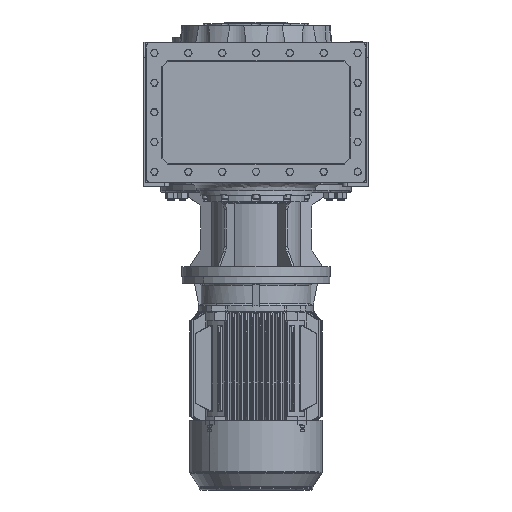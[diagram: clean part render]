
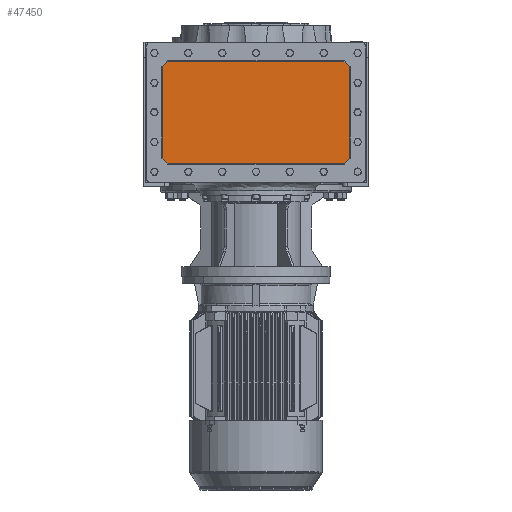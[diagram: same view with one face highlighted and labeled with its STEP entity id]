
A CAD part, front view. The second image highlights one B-rep face of the part: STEP entity #47450.
In plain terms, the highlighted planar face has unit normal (0, -1, 0).
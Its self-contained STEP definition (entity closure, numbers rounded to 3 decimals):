
#9283 = AXIS2_PLACEMENT_3D ( 'NONE', #75551, #75606, #75545 ) ;
#26198 = EDGE_LOOP ( 'NONE', ( #99063, #99194, #99034, #99197, #99202, #98946, #99084, #99076 ) ) ;
#40058 = FACE_OUTER_BOUND ( 'NONE', #26198, .T. ) ;
#47450 = ADVANCED_FACE ( 'NONE', ( #40058 ), #75609, .T. ) ;
#69667 = VERTEX_POINT ( 'NONE', #87251 ) ;
#69670 = VERTEX_POINT ( 'NONE', #87277 ) ;
#69684 = VERTEX_POINT ( 'NONE', #87260 ) ;
#69722 = VERTEX_POINT ( 'NONE', #87257 ) ;
#69741 = VERTEX_POINT ( 'NONE', #87218 ) ;
#69824 = VERTEX_POINT ( 'NONE', #87293 ) ;
#69826 = VERTEX_POINT ( 'NONE', #87340 ) ;
#69856 = VERTEX_POINT ( 'NONE', #87339 ) ;
#70679 = LINE ( 'NONE', #76029, #70730 ) ;
#70696 = VECTOR ( 'NONE', #75980, 1000. ) ;
#70714 = LINE ( 'NONE', #81738, #70765 ) ;
#70717 = LINE ( 'NONE', #81740, #70773 ) ;
#70730 = VECTOR ( 'NONE', #76040, 1000. ) ;
#70733 = LINE ( 'NONE', #75991, #70696 ) ;
#70765 = VECTOR ( 'NONE', #81764, 1000. ) ;
#70773 = VECTOR ( 'NONE', #81776, 1000. ) ;
#70832 = VECTOR ( 'NONE', #81950, 1000. ) ;
#70842 = VECTOR ( 'NONE', #81794, 1000. ) ;
#70848 = VECTOR ( 'NONE', #79877, 1000. ) ;
#70874 = LINE ( 'NONE', #79883, #70949 ) ;
#70884 = LINE ( 'NONE', #79874, #70848 ) ;
#70949 = VECTOR ( 'NONE', #79850, 1000. ) ;
#70972 = LINE ( 'NONE', #81926, #70832 ) ;
#70976 = LINE ( 'NONE', #81808, #70842 ) ;
#75545 = DIRECTION ( 'NONE',  ( 0., 0., -1. ) ) ;
#75551 = CARTESIAN_POINT ( 'NONE',  ( 0., -227., 0. ) ) ;
#75606 = DIRECTION ( 'NONE',  ( 0., -1., 0. ) ) ;
#75609 = PLANE ( 'NONE',  #9283 ) ;
#75980 = DIRECTION ( 'NONE',  ( -0.707, 0., 0.707 ) ) ;
#75991 = CARTESIAN_POINT ( 'NONE',  ( -221.242, -227., 63.008 ) ) ;
#76029 = CARTESIAN_POINT ( 'NONE',  ( -220.928, -227., 278.25 ) ) ;
#76040 = DIRECTION ( 'NONE',  ( 0., 0., 1. ) ) ;
#79850 = DIRECTION ( 'NONE',  ( -0.707, 0., -0.707 ) ) ;
#79874 = CARTESIAN_POINT ( 'NONE',  ( -208., -227., 291.178 ) ) ;
#79877 = DIRECTION ( 'NONE',  ( 1., 0., 0. ) ) ;
#79883 = CARTESIAN_POINT ( 'NONE',  ( 221.242, -227., 63.008 ) ) ;
#81738 = CARTESIAN_POINT ( 'NONE',  ( -208., -227., 49.322 ) ) ;
#81740 = CARTESIAN_POINT ( 'NONE',  ( 207.242, -227., 291.492 ) ) ;
#81764 = DIRECTION ( 'NONE',  ( -1., 0., 0. ) ) ;
#81776 = DIRECTION ( 'NONE',  ( 0.707, 0., -0.707 ) ) ;
#81794 = DIRECTION ( 'NONE',  ( 0., 0., -1. ) ) ;
#81808 = CARTESIAN_POINT ( 'NONE',  ( 220.928, -227., 278.25 ) ) ;
#81926 = CARTESIAN_POINT ( 'NONE',  ( -207.242, -227., 291.492 ) ) ;
#81950 = DIRECTION ( 'NONE',  ( 0.707, 0., 0.707 ) ) ;
#87218 = CARTESIAN_POINT ( 'NONE',  ( -207.556, -227., 49.322 ) ) ;
#87251 = CARTESIAN_POINT ( 'NONE',  ( 207.556, -227., 291.178 ) ) ;
#87257 = CARTESIAN_POINT ( 'NONE',  ( 220.928, -227., 62.694 ) ) ;
#87260 = CARTESIAN_POINT ( 'NONE',  ( 220.928, -227., 277.806 ) ) ;
#87277 = CARTESIAN_POINT ( 'NONE',  ( -207.556, -227., 291.178 ) ) ;
#87293 = CARTESIAN_POINT ( 'NONE',  ( 207.556, -227., 49.322 ) ) ;
#87339 = CARTESIAN_POINT ( 'NONE',  ( -220.928, -227., 62.694 ) ) ;
#87340 = CARTESIAN_POINT ( 'NONE',  ( -220.928, -227., 277.806 ) ) ;
#98946 = ORIENTED_EDGE ( 'NONE', *, *, #125883, .F. ) ;
#99034 = ORIENTED_EDGE ( 'NONE', *, *, #126002, .F. ) ;
#99063 = ORIENTED_EDGE ( 'NONE', *, *, #125955, .F. ) ;
#99076 = ORIENTED_EDGE ( 'NONE', *, *, #125999, .F. ) ;
#99084 = ORIENTED_EDGE ( 'NONE', *, *, #125941, .F. ) ;
#99194 = ORIENTED_EDGE ( 'NONE', *, *, #125948, .F. ) ;
#99197 = ORIENTED_EDGE ( 'NONE', *, *, #125993, .F. ) ;
#99202 = ORIENTED_EDGE ( 'NONE', *, *, #125880, .F. ) ;
#125880 = EDGE_CURVE ( 'NONE', #69856, #69826, #70679, .T. ) ;
#125883 = EDGE_CURVE ( 'NONE', #69741, #69856, #70733, .T. ) ;
#125941 = EDGE_CURVE ( 'NONE', #69824, #69741, #70714, .T. ) ;
#125948 = EDGE_CURVE ( 'NONE', #69667, #69684, #70717, .T. ) ;
#125955 = EDGE_CURVE ( 'NONE', #69684, #69722, #70976, .T. ) ;
#125993 = EDGE_CURVE ( 'NONE', #69826, #69670, #70972, .T. ) ;
#125999 = EDGE_CURVE ( 'NONE', #69722, #69824, #70874, .T. ) ;
#126002 = EDGE_CURVE ( 'NONE', #69670, #69667, #70884, .T. ) ;
